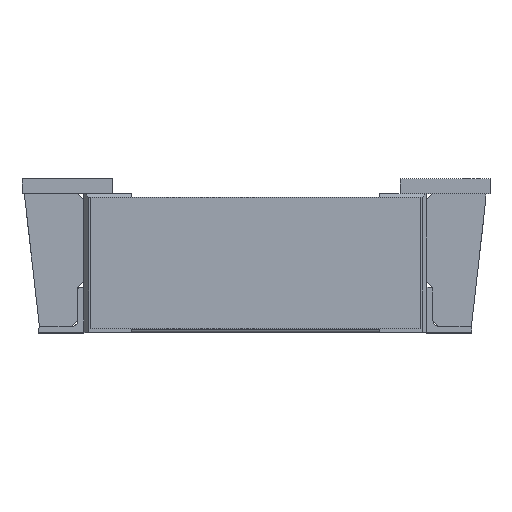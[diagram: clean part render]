
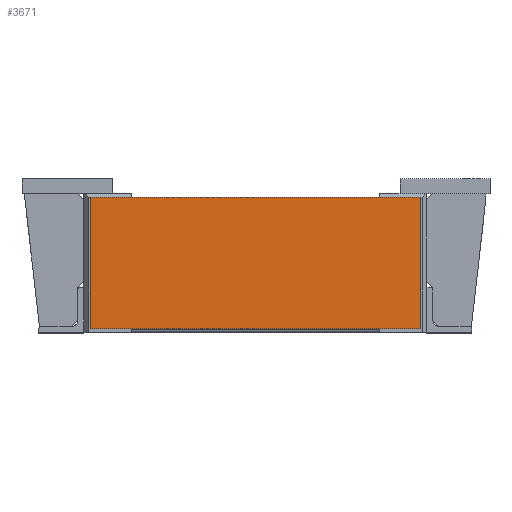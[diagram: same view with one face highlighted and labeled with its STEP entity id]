
A CAD part, top view. The second image highlights one B-rep face of the part: STEP entity #3671.
In plain terms, the highlighted planar face has unit normal (0, 0, 1).
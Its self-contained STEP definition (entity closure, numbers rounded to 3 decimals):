
#216=FACE_OUTER_BOUND('',#394,.T.);
#394=EDGE_LOOP('',(#2600,#2601,#2602,#2603));
#722=LINE('',#5330,#1165);
#732=LINE('',#5348,#1175);
#742=LINE('',#5366,#1185);
#743=LINE('',#5367,#1186);
#1165=VECTOR('',#4323,550.);
#1175=VECTOR('',#4335,550.);
#1185=VECTOR('',#4353,219.);
#1186=VECTOR('',#4354,219.);
#1561=VERTEX_POINT('',#5327);
#1562=VERTEX_POINT('',#5329);
#1568=VERTEX_POINT('',#5345);
#1569=VERTEX_POINT('',#5347);
#1950=EDGE_CURVE('',#1561,#1562,#722,.T.);
#1960=EDGE_CURVE('',#1569,#1568,#732,.T.);
#1970=EDGE_CURVE('',#1568,#1562,#742,.T.);
#1971=EDGE_CURVE('',#1569,#1561,#743,.T.);
#2600=ORIENTED_EDGE('',*,*,#1970,.T.);
#2601=ORIENTED_EDGE('',*,*,#1950,.F.);
#2602=ORIENTED_EDGE('',*,*,#1971,.F.);
#2603=ORIENTED_EDGE('',*,*,#1960,.T.);
#3367=PLANE('',#3850);
#3671=ADVANCED_FACE('',(#216),#3367,.T.);
#3850=AXIS2_PLACEMENT_3D('',#5365,#4351,#4352);
#4323=DIRECTION('',(1.,0.,0.));
#4335=DIRECTION('',(1.,0.,0.));
#4351=DIRECTION('center_axis',(0.,0.,
1.));
#4352=DIRECTION('ref_axis',(1.,0.,0.));
#4353=DIRECTION('',(0.,1.,0.));
#4354=DIRECTION('',(0.,1.,0.));
#5327=CARTESIAN_POINT('',(-581.971,203.029,1395.));
#5329=CARTESIAN_POINT('',(-31.971,203.029,1395.));
#5330=CARTESIAN_POINT('',(-581.971,203.029,1395.));
#5345=CARTESIAN_POINT('',(-31.971,-15.971,1395.));
#5347=CARTESIAN_POINT('',(-581.971,-15.971,1395.));
#5348=CARTESIAN_POINT('',(-581.971,-15.971,1395.));
#5365=CARTESIAN_POINT('Origin',(-581.971,-15.971,1395.));
#5366=CARTESIAN_POINT('',(-31.971,-15.971,1395.));
#5367=CARTESIAN_POINT('',(-581.971,-15.971,1395.));
